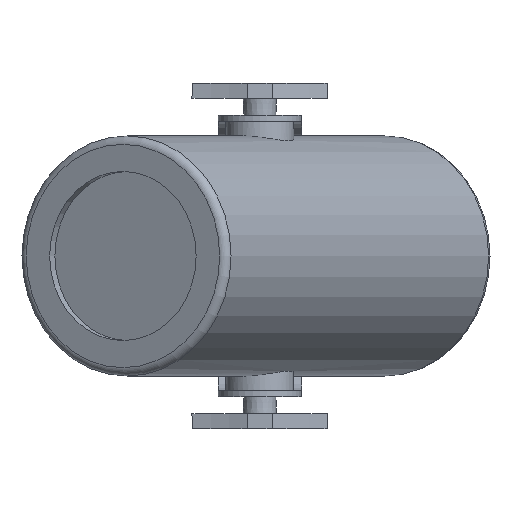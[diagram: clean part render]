
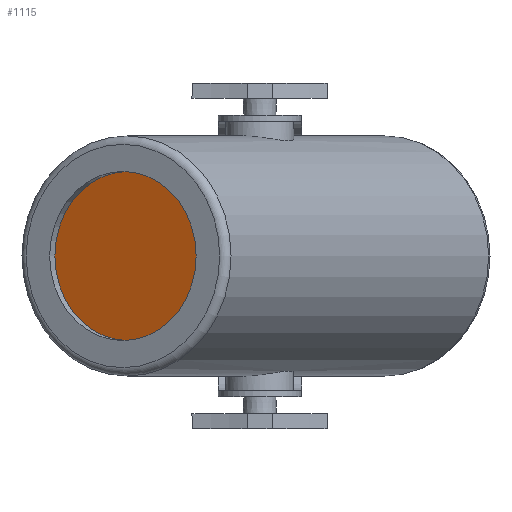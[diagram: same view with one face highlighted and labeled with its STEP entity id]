
A CAD part, left-side view. The second image highlights one B-rep face of the part: STEP entity #1115.
In plain terms, the highlighted planar face has unit normal (-0.866, 0.5, 0) as drawn and (-1, 0, 0) by its records, which use the part's own axes.
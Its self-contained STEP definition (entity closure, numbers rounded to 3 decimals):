
#118=PLANE('',#1264);
#185=FACE_OUTER_BOUND('',#266,.T.);
#266=EDGE_LOOP('',(#1037));
#456=CIRCLE('',#1263,40.5);
#566=VERTEX_POINT('',#3817);
#723=EDGE_CURVE('',#566,#566,#456,.T.);
#1037=ORIENTED_EDGE('',*,*,#723,.F.);
#1115=ADVANCED_FACE('',(#185),#118,.T.);
#1263=AXIS2_PLACEMENT_3D('',#3819,#1576,#1577);
#1264=AXIS2_PLACEMENT_3D('',#3820,#1578,#1579);
#1576=DIRECTION('center_axis',(1.,0.,0.));
#1577=DIRECTION('ref_axis',(0.,-1.,0.));
#1578=DIRECTION('center_axis',(-1.,0.,0.));
#1579=DIRECTION('ref_axis',(0.,-1.,0.));
#3817=CARTESIAN_POINT('',(-6.7,40.5,0.));
#3819=CARTESIAN_POINT('Origin',(-6.7,0.,0.));
#3820=CARTESIAN_POINT('Origin',(-6.7,0.,0.));
